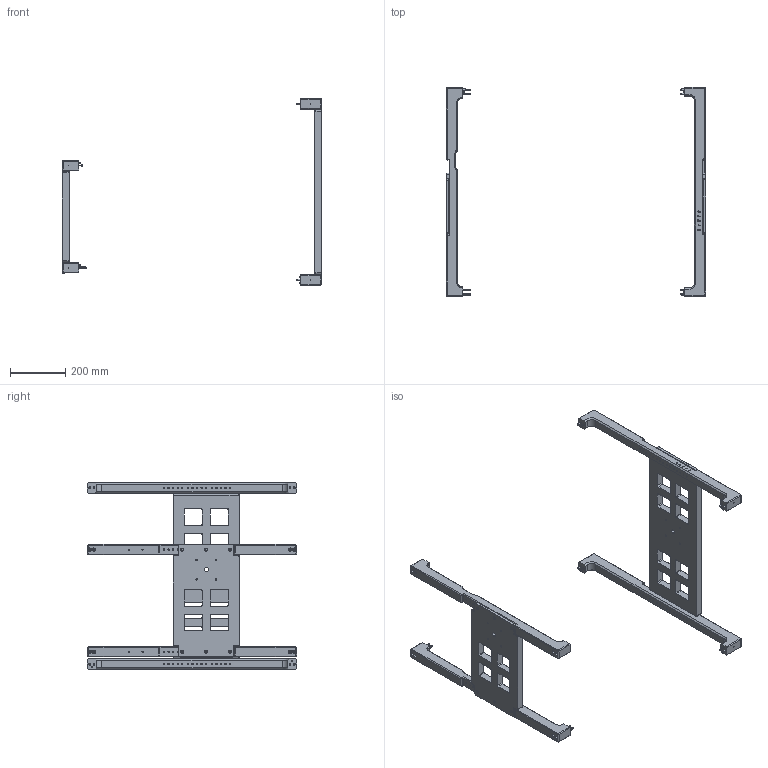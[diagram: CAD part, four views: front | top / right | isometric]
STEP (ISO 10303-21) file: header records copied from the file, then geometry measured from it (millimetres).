
FILE_DESCRIPTION((''),'2;1');
FILE_NAME('CU_MAN_BRKT_KIT-135410-01','2024-03-04T10:20:40',('dkendric'),(''),'CREO PARAMETRIC BY PTC INC, 2021063','CREO PARAMETRIC BY PTC INC, 2021063','');
FILE_SCHEMA(('AUTOMOTIVE_DESIGN { 1 0 10303 214 1 1 1 1 }'));
Products named in the file (1): CU_MAN_BRKT_KIT-135410-01
Bounding box: 942.4 x 759.4 x 678.05 mm (x, y, z)
Volume: 9224138.5 mm3; surface area: 1080559.4 mm2
Topology: 2 solids, 2 shells, 2530 faces, 6418 edges, 4064 vertices
Faces by surface type: plane 1342, cylinder 829, cone 344, bspline 15
Entity records: 134677 total; most frequent: CARTESIAN_POINT 70632, ORIENTED_EDGE 12810, DIRECTION 11882, EDGE_CURVE 6405, VECTOR 4267, LINE 4267, VERTEX_POINT 4064, AXIS2_PLACEMENT_3D 3806
